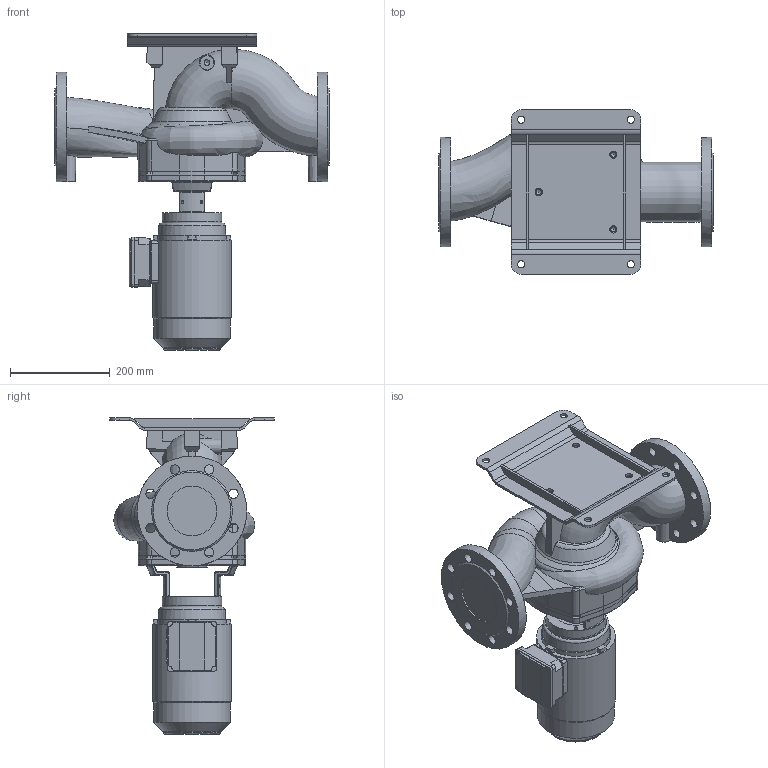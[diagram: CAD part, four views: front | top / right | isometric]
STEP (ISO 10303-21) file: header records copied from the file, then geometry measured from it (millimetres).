
FILE_DESCRIPTION (( 'STEP AP203' ), '1' );
FILE_NAME ('KI100-145_4_0,75kW.STEP', '2024-07-29T10:45:12', ( '' ), ( '' ), 'SwSTEP 2.0', 'SolidWorks 2023', '' );
FILE_SCHEMA (( 'CONFIG_CONTROL_DESIGN' ));
Length unit declared in the file: millimetre
Products named in the file (11): 230409; 230500; 230501; HMA3_80_2-4_solid; 230033; KI100-145_4_0,75kW; 230031; 230034; 220542; 230408; 220544
Assembly tree (11 placements, depth 3):
  KI100-145_4_0,75kW
    HMA3_80_2-4_solid
    230409
      230408
    230501
      230500
    220544
      220542
    230034
      230031
      230033  x2
Bounding box: 550 x 330.18 x 634.95 mm (x, y, z)
Volume: 19424645.4 mm3; surface area: 1165033 mm2
Topology: 7 solids, 7 shells, 808 faces, 2142 edges, 1337 vertices
Faces by surface type: plane 274, cylinder 274, bspline 103, cone 77, torus 66, sphere 14
Full cylindrical faces by diameter (mm): 5 x12, 6 x3, 7 x8, 8 x4, 10.2 x7, 11.8 x4, 14 x4, 14.5 x7, 19 x16, 80 x1, 100 x2, 116 x1, 120 x2, 140 x1, 153.6 x1, 158.6 x1, 164 x1, 189 x1, 220 x2
Entity records: 87701 total; most frequent: CARTESIAN_POINT 68243, ORIENTED_EDGE 3846, DIRECTION 3657, EDGE_CURVE 1923, AXIS2_PLACEMENT_3D 1441, VERTEX_POINT 1259, EDGE_LOOP 1006, FACE_OUTER_BOUND 879
